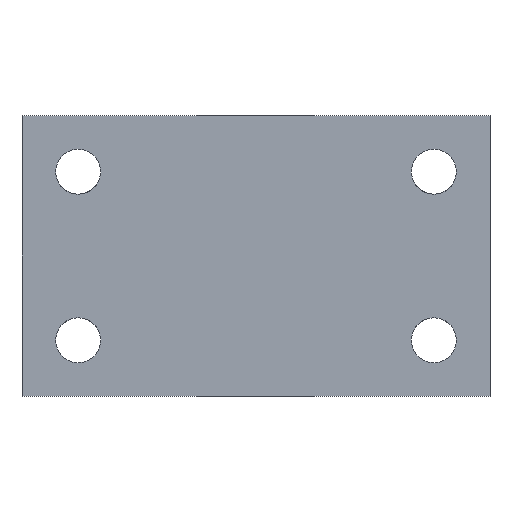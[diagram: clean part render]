
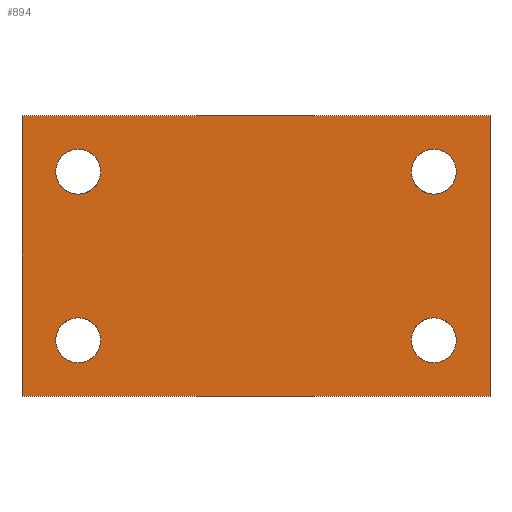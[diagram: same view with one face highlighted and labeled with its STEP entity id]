
A CAD part, front view. The second image highlights one B-rep face of the part: STEP entity #894.
In plain terms, the highlighted planar face has unit normal (0, -1, 0).
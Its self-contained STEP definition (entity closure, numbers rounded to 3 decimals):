
#44=FACE_BOUND('',#169,.T.);
#45=FACE_BOUND('',#170,.T.);
#46=FACE_BOUND('',#171,.T.);
#47=FACE_BOUND('',#172,.T.);
#57=CIRCLE('',#947,2.4);
#62=CIRCLE('',#954,2.4);
#67=CIRCLE('',#961,2.4);
#72=CIRCLE('',#968,2.4);
#116=FACE_OUTER_BOUND('',#168,.T.);
#168=EDGE_LOOP('',(#821,#822,#823,#824));
#169=EDGE_LOOP('',(#825));
#170=EDGE_LOOP('',(#826));
#171=EDGE_LOOP('',(#827));
#172=EDGE_LOOP('',(#828));
#245=LINE('',#1579,#329);
#249=LINE('',#1587,#333);
#252=LINE('',#1593,#336);
#255=LINE('',#1598,#339);
#329=VECTOR('',#1210,10.);
#333=VECTOR('',#1216,10.);
#336=VECTOR('',#1221,10.);
#339=VECTOR('',#1226,10.);
#406=VERTEX_POINT('',#1378);
#411=VERTEX_POINT('',#1392);
#416=VERTEX_POINT('',#1407);
#421=VERTEX_POINT('',#1422);
#431=VERTEX_POINT('',#1577);
#432=VERTEX_POINT('',#1578);
#435=VERTEX_POINT('',#1586);
#437=VERTEX_POINT('',#1592);
#515=EDGE_CURVE('',#406,#406,#57,.T.);
#522=EDGE_CURVE('',#411,#411,#62,.T.);
#530=EDGE_CURVE('',#416,#416,#67,.T.);
#538=EDGE_CURVE('',#421,#421,#72,.T.);
#557=EDGE_CURVE('',#431,#432,#245,.T.);
#561=EDGE_CURVE('',#432,#435,#249,.T.);
#564=EDGE_CURVE('',#435,#437,#252,.T.);
#567=EDGE_CURVE('',#437,#431,#255,.T.);
#821=ORIENTED_EDGE('',*,*,#567,.T.);
#822=ORIENTED_EDGE('',*,*,#557,.T.);
#823=ORIENTED_EDGE('',*,*,#561,.T.);
#824=ORIENTED_EDGE('',*,*,#564,.T.);
#825=ORIENTED_EDGE('',*,*,#515,.T.);
#826=ORIENTED_EDGE('',*,*,#522,.T.);
#827=ORIENTED_EDGE('',*,*,#530,.T.);
#828=ORIENTED_EDGE('',*,*,#538,.T.);
#855=PLANE('',#987);
#894=ADVANCED_FACE('',(#116,#44,#45,#46,#47),#855,.F.);
#947=AXIS2_PLACEMENT_3D('',#1380,#1121,#1122);
#954=AXIS2_PLACEMENT_3D('',#1394,#1137,#1138);
#961=AXIS2_PLACEMENT_3D('',#1409,#1154,#1155);
#968=AXIS2_PLACEMENT_3D('',#1424,#1171,#1172);
#987=AXIS2_PLACEMENT_3D('',#1601,#1230,#1231);
#1121=DIRECTION('center_axis',(0.,1.,0.));
#1122=DIRECTION('ref_axis',(0.,0.,1.));
#1137=DIRECTION('center_axis',(0.,1.,0.));
#1138=DIRECTION('ref_axis',(0.,0.,1.));
#1154=DIRECTION('center_axis',(0.,1.,0.));
#1155=DIRECTION('ref_axis',(0.,0.,1.));
#1171=DIRECTION('center_axis',(0.,1.,0.));
#1172=DIRECTION('ref_axis',(0.,0.,1.));
#1210=DIRECTION('',(0.,0.,-1.));
#1216=DIRECTION('',(1.,0.,0.));
#1221=DIRECTION('',(0.,0.,1.));
#1226=DIRECTION('',(-1.,0.,0.));
#1230=DIRECTION('center_axis',(0.,1.,0.));
#1231=DIRECTION('ref_axis',(1.,0.,0.));
#1378=CARTESIAN_POINT('',(-19.,0.,-11.4));
#1380=CARTESIAN_POINT('Origin',(-19.,0.,-9.));
#1392=CARTESIAN_POINT('',(19.,0.,-11.4));
#1394=CARTESIAN_POINT('Origin',(19.,0.,-9.));
#1407=CARTESIAN_POINT('',(-19.,0.,6.6));
#1409=CARTESIAN_POINT('Origin',(-19.,0.,9.));
#1422=CARTESIAN_POINT('',(19.,0.,6.6));
#1424=CARTESIAN_POINT('Origin',(19.,0.,9.));
#1577=CARTESIAN_POINT('',(-25.,0.,15.));
#1578=CARTESIAN_POINT('',(-25.,0.,-15.));
#1579=CARTESIAN_POINT('',(-25.,0.,15.));
#1586=CARTESIAN_POINT('',(25.,0.,-15.));
#1587=CARTESIAN_POINT('',(-25.,0.,-15.));
#1592=CARTESIAN_POINT('',(25.,0.,15.));
#1593=CARTESIAN_POINT('',(25.,0.,-15.));
#1598=CARTESIAN_POINT('',(25.,0.,15.));
#1601=CARTESIAN_POINT('Origin',(0.,0.,0.));
